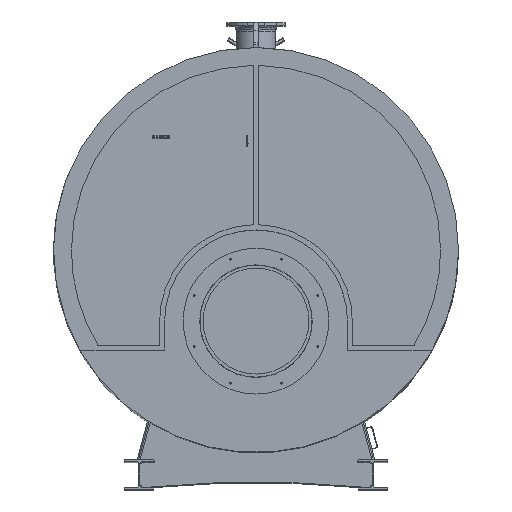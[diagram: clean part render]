
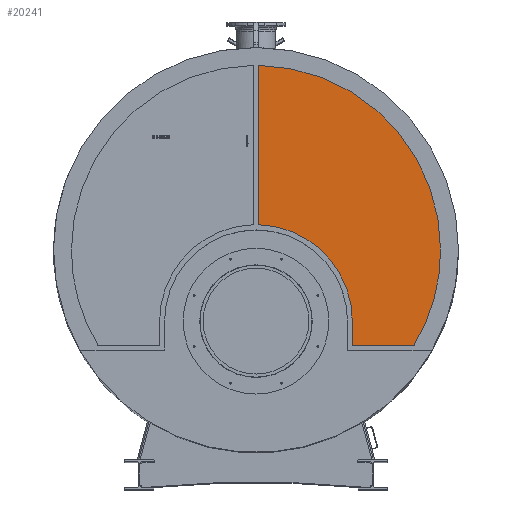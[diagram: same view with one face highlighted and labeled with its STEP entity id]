
A CAD part, top view. The second image highlights one B-rep face of the part: STEP entity #20241.
In plain terms, the highlighted planar face has unit normal (0, 0, 1).
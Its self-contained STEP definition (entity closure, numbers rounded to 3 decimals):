
#20048=CARTESIAN_POINT('',(15.,179.169,333.));
#20049=VERTEX_POINT('',#20048);
#20056=CARTESIAN_POINT('',(15.,1260.325,333.));
#20057=VERTEX_POINT('',#20056);
#20058=CARTESIAN_POINT('',(15.,1260.325,333.));
#20059=DIRECTION('',(-0.,-1.,0.));
#20060=VECTOR('',#20059,1081.156);
#20061=LINE('',#20058,#20060);
#20062=EDGE_CURVE('',#20057,#20049,#20061,.T.);
#20078=CARTESIAN_POINT('',(20.811,173.172,333.));
#20079=VERTEX_POINT('',#20078);
#20080=CARTESIAN_POINT('',(661.,-487.5,333.));
#20081=VERTEX_POINT('',#20080);
#20082=CARTESIAN_POINT('',(0.,-487.5,333.));
#20083=DIRECTION('',(0.,0.,-1.));
#20084=DIRECTION('',(1.,0.,0.));
#20085=AXIS2_PLACEMENT_3D('',#20082,#20083,#20084);
#20086=CIRCLE('',#20085,661.);
#20087=EDGE_CURVE('',#20079,#20081,#20086,.T.);
#20111=CARTESIAN_POINT('',(661.,-648.,333.));
#20112=VERTEX_POINT('',#20111);
#20119=CARTESIAN_POINT('',(661.,-487.5,333.));
#20120=DIRECTION('',(0.,-1.,0.));
#20121=VECTOR('',#20120,160.5);
#20122=LINE('',#20119,#20121);
#20123=EDGE_CURVE('',#20081,#20112,#20122,.T.);
#20135=CARTESIAN_POINT('',(1081.183,-654.,333.));
#20136=VERTEX_POINT('',#20135);
#20143=CARTESIAN_POINT('',(667.,-654.,333.));
#20144=VERTEX_POINT('',#20143);
#20145=CARTESIAN_POINT('',(667.,-654.,333.));
#20146=DIRECTION('',(1.,0.,-0.));
#20147=VECTOR('',#20146,414.183);
#20148=LINE('',#20145,#20147);
#20149=EDGE_CURVE('',#20144,#20136,#20148,.T.);
#20165=CARTESIAN_POINT('',(1266.5,-0.,333.));
#20166=VERTEX_POINT('',#20165);
#20174=CARTESIAN_POINT('',(21.1,1266.324,333.));
#20175=VERTEX_POINT('',#20174);
#20182=CARTESIAN_POINT('',(0.,0.,333.));
#20183=DIRECTION('',(0.,0.,1.));
#20184=DIRECTION('',(1.,0.,-0.));
#20185=AXIS2_PLACEMENT_3D('',#20182,#20183,#20184);
#20186=CIRCLE('',#20185,1266.5);
#20187=EDGE_CURVE('',#20166,#20175,#20186,.T.);
#20192=CARTESIAN_POINT('',(0.,-487.5,333.));
#20193=DIRECTION('',(0.,0.,-1.));
#20194=DIRECTION('',(-1.,0.,0.));
#20195=AXIS2_PLACEMENT_3D('',#20192,#20193,#20194);
#20196=PLANE('',#20195);
#20197=ORIENTED_EDGE('',*,*,#20149,.T.);
#20198=CARTESIAN_POINT('',(1086.329,-651.084,333.));
#20199=VERTEX_POINT('',#20198);
#20200=CARTESIAN_POINT('',(1081.183,-648.,333.));
#20201=DIRECTION('',(-0.,-0.,1.));
#20202=DIRECTION('',(-1.,0.,0.));
#20203=AXIS2_PLACEMENT_3D('',#20200,#20201,#20202);
#20204=CIRCLE('',#20203,6.);
#20205=EDGE_CURVE('',#20136,#20199,#20204,.T.);
#20206=ORIENTED_EDGE('',*,*,#20205,.T.);
#20207=CARTESIAN_POINT('',(0.,0.,333.));
#20208=DIRECTION('',(0.,0.,1.));
#20209=DIRECTION('',(1.,0.,-0.));
#20210=AXIS2_PLACEMENT_3D('',#20207,#20208,#20209);
#20211=CIRCLE('',#20210,1266.5);
#20212=EDGE_CURVE('',#20199,#20166,#20211,.T.);
#20213=ORIENTED_EDGE('',*,*,#20212,.T.);
#20214=ORIENTED_EDGE('',*,*,#20187,.T.);
#20215=CARTESIAN_POINT('',(21.,1260.325,333.));
#20216=DIRECTION('',(-0.,-0.,1.));
#20217=DIRECTION('',(-1.,0.,0.));
#20218=AXIS2_PLACEMENT_3D('',#20215,#20216,#20217);
#20219=CIRCLE('',#20218,6.);
#20220=EDGE_CURVE('',#20175,#20057,#20219,.T.);
#20221=ORIENTED_EDGE('',*,*,#20220,.T.);
#20222=ORIENTED_EDGE('',*,*,#20062,.T.);
#20223=CARTESIAN_POINT('',(21.,179.169,333.));
#20224=DIRECTION('',(-0.,-0.,1.));
#20225=DIRECTION('',(-1.,0.,0.));
#20226=AXIS2_PLACEMENT_3D('',#20223,#20224,#20225);
#20227=CIRCLE('',#20226,6.);
#20228=EDGE_CURVE('',#20049,#20079,#20227,.T.);
#20229=ORIENTED_EDGE('',*,*,#20228,.T.);
#20230=ORIENTED_EDGE('',*,*,#20087,.T.);
#20231=ORIENTED_EDGE('',*,*,#20123,.T.);
#20232=CARTESIAN_POINT('',(667.,-648.,333.));
#20233=DIRECTION('',(-0.,-0.,1.));
#20234=DIRECTION('',(-1.,0.,0.));
#20235=AXIS2_PLACEMENT_3D('',#20232,#20233,#20234);
#20236=CIRCLE('',#20235,6.);
#20237=EDGE_CURVE('',#20112,#20144,#20236,.T.);
#20238=ORIENTED_EDGE('',*,*,#20237,.T.);
#20239=EDGE_LOOP('',(#20197,#20206,#20213,#20214,#20221,#20222,#20229,#20230,#20231,#20238));
#20240=FACE_BOUND('',#20239,.T.);
#20241=ADVANCED_FACE('',(#20240),#20196,.F.);
